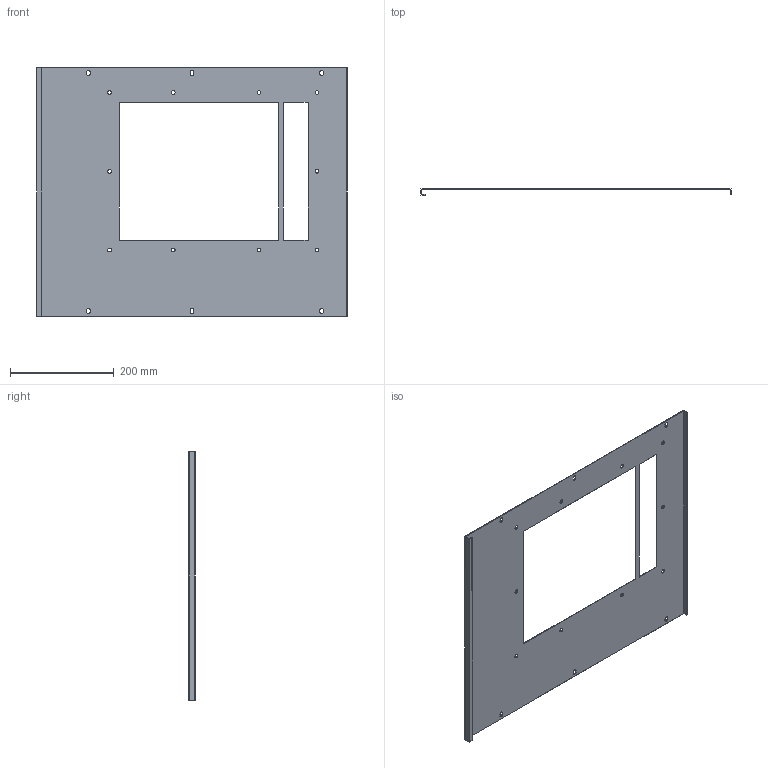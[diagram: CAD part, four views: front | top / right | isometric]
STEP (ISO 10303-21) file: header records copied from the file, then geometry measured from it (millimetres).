
FILE_DESCRIPTION (( 'STEP AP214' ), '1' );
FILE_NAME ('FO-00-PVAB-060-060 Ïëàñòðîí ñ âûðåçîì äëÿ ACB Armat AIIB 3II4P W 600õ600.STEP', '2025-08-26T07:49:09', ( '' ), ( '' ), 'SwSTEP 2.0', 'SolidWorks 2023', '' );
FILE_SCHEMA (( 'AUTOMOTIVE_DESIGN' ));
Length unit declared in the file: millimetre
Products named in the file (1): FO-00-PVAB-060-060 Пластрон с вырезом для ACB Armat AIIB 3II4P W 600х600
Bounding box: 598 x 12.5 x 479 mm (x, y, z)
Volume: 305535.8 mm3; surface area: 413947 mm2
Topology: 1 solids, 1 shells, 80 faces, 234 edges, 156 vertices
Faces by surface type: plane 42, cylinder 38
Entity records: 2769 total; most frequent: DIRECTION 472, CARTESIAN_POINT 471, ORIENTED_EDGE 468, EDGE_CURVE 234, VECTOR 158, LINE 158, AXIS2_PLACEMENT_3D 157, VERTEX_POINT 156
